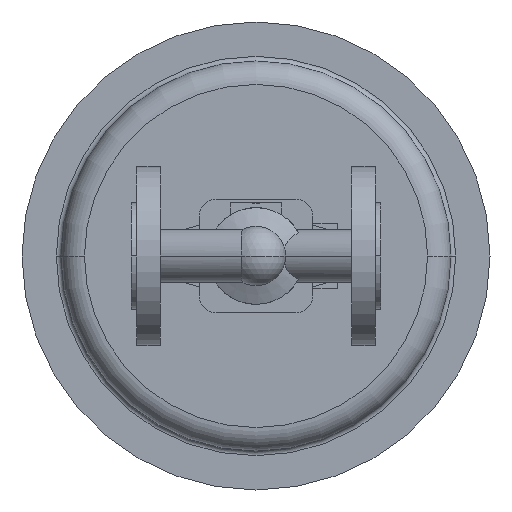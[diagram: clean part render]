
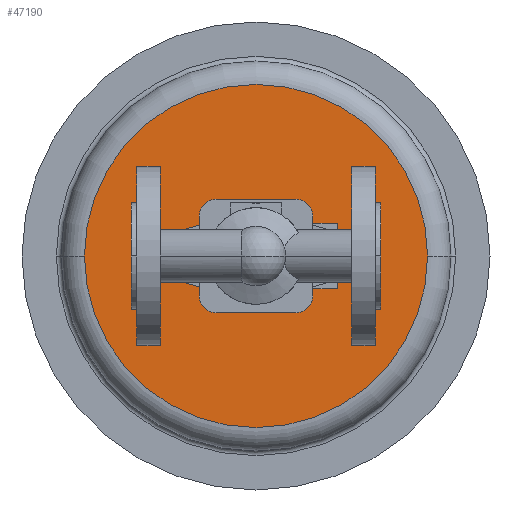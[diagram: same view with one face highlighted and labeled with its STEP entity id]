
A CAD part, front view. The second image highlights one B-rep face of the part: STEP entity #47190.
In plain terms, the highlighted planar face has unit normal (0, -1, 0).
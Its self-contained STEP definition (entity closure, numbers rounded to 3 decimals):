
#33680=CARTESIAN_POINT('',(190.,356.,0.));
#33690=VERTEX_POINT('',#33680);
#33720=CARTESIAN_POINT('',(80.,356.,0.));
#33730=DIRECTION('',(0.,1.,0.));
#33740=DIRECTION('',(1.,0.,0.));
#33750=AXIS2_PLACEMENT_3D('',#33720,#33730,#33740);
#33760=CIRCLE('',#33750,110.);
#33770=CARTESIAN_POINT('',(-30.,356.,0.));
#33780=VERTEX_POINT('',#33770);
#33790=EDGE_CURVE('',#33780,#33690,#33760,.T.);
#34450=CARTESIAN_POINT('',(115.,356.,0.));
#34460=VERTEX_POINT('',#34450);
#34490=CARTESIAN_POINT('',(130.,356.,0.));
#34500=DIRECTION('',(0.,1.,0.));
#34510=DIRECTION('',(1.,0.,0.));
#34520=AXIS2_PLACEMENT_3D('',#34490,#34500,#34510);
#34530=CIRCLE('',#34520,15.);
#34540=CARTESIAN_POINT('',(145.,356.,0.));
#34550=VERTEX_POINT('',#34540);
#34560=EDGE_CURVE('',#34460,#34550,#34530,.T.);
#34870=CARTESIAN_POINT('',(45.,356.,0.));
#34880=VERTEX_POINT('',#34870);
#34910=CARTESIAN_POINT('',(30.,356.,0.));
#34920=DIRECTION('',(0.,1.,0.));
#34930=DIRECTION('',(1.,0.,0.));
#34940=AXIS2_PLACEMENT_3D('',#34910,#34920,#34930);
#34950=CIRCLE('',#34940,15.);
#34960=CARTESIAN_POINT('',(15.,356.,0.));
#34970=VERTEX_POINT('',#34960);
#34980=EDGE_CURVE('',#34880,#34970,#34950,.T.);
#35270=CARTESIAN_POINT('',(98.45,356.,0.));
#35280=VERTEX_POINT('',#35270);
#35500=CARTESIAN_POINT('',(61.55,356.,0.));
#35510=VERTEX_POINT('',#35500);
#35540=CARTESIAN_POINT('',(80.,356.,0.));
#35550=DIRECTION('',(0.,1.,0.));
#35560=DIRECTION('',(1.,0.,0.));
#35570=AXIS2_PLACEMENT_3D('',#35540,#35550,#35560);
#35580=CIRCLE('',#35570,18.45);
#35590=EDGE_CURVE('',#35510,#35280,#35580,.T.);
#46940=CARTESIAN_POINT('',(135.,356.,0.));
#46950=DIRECTION('',(0.,-1.,0.));
#46960=DIRECTION('',(-1.,0.,0.));
#46970=AXIS2_PLACEMENT_3D('',#46940,#46950,#46960);
#46980=PLANE('',#46970);
#46990=EDGE_CURVE('',#35280,#35510,#35580,.T.);
#47000=ORIENTED_EDGE('',*,*,#46990,.T.);
#47010=ORIENTED_EDGE('',*,*,#35590,.T.);
#47020=EDGE_LOOP('',(#47010,#47000));
#47030=FACE_BOUND('',#47020,.T.);
#47040=EDGE_CURVE('',#34970,#34880,#34950,.T.);
#47050=ORIENTED_EDGE('',*,*,#47040,.T.);
#47060=ORIENTED_EDGE('',*,*,#34980,.T.);
#47070=EDGE_LOOP('',(#47060,#47050));
#47080=FACE_BOUND('',#47070,.T.);
#47090=ORIENTED_EDGE('',*,*,#34560,.T.);
#47100=EDGE_CURVE('',#34550,#34460,#34530,.T.);
#47110=ORIENTED_EDGE('',*,*,#47100,.T.);
#47120=EDGE_LOOP('',(#47110,#47090));
#47130=FACE_BOUND('',#47120,.T.);
#47140=EDGE_CURVE('',#33690,#33780,#33760,.T.);
#47150=ORIENTED_EDGE('',*,*,#47140,.F.);
#47160=ORIENTED_EDGE('',*,*,#33790,.F.);
#47170=EDGE_LOOP('',(#47160,#47150));
#47180=FACE_OUTER_BOUND('',#47170,.T.);
#47190=ADVANCED_FACE('',(#47030,#47080,#47130,#47180),#46980,.T.);
